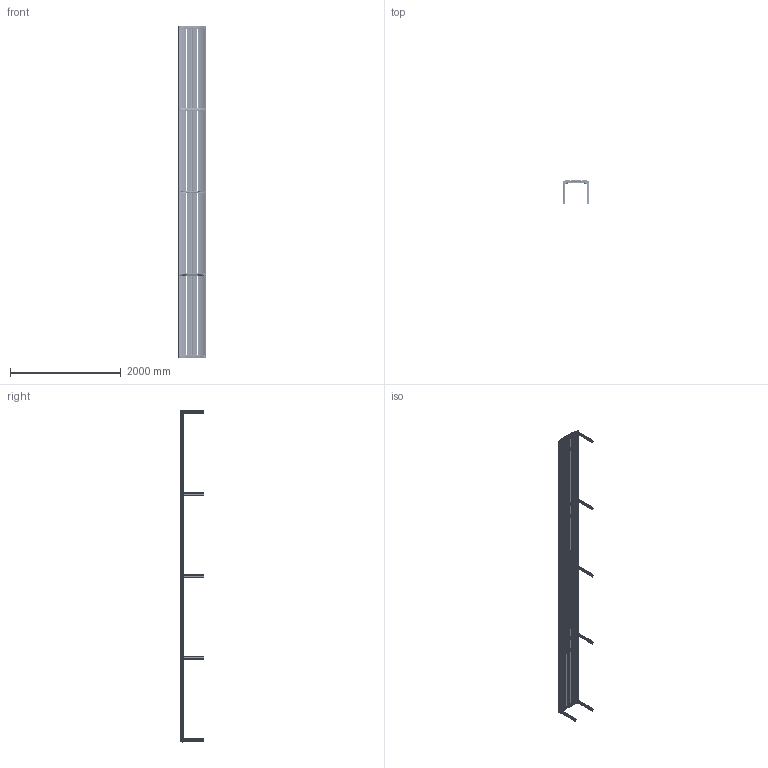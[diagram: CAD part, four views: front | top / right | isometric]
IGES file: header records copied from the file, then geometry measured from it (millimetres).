
Start section: SolidWorks IGES file using analytic representation for surfaces
Global section: file name: C:\SANTACOLE_PDM\Proyectos Catálogo\PROD-P06-035 -- NEOROMÁNTICO LIVIANO\6_Técnico comercial\3D WEB\NEOROMANTICO BANQUETA 100% ALUMINIO 600cm.IGS; native system: SolidWorks 2013; preprocessor: SolidWorks 2013; author: jordi.munoz; date: 150611.135010; units: millimetre
Bounding box: 491.14 x 429.97 x 6004.33 mm (x, y, z)
Surface area: 18725437.8 mm2 (no closed solid volume)
Topology: 0 solids, 0 shells, 7355 faces, 60401 edges, 60349 vertices
Faces by surface type: bspline 4978, revolution 2377
